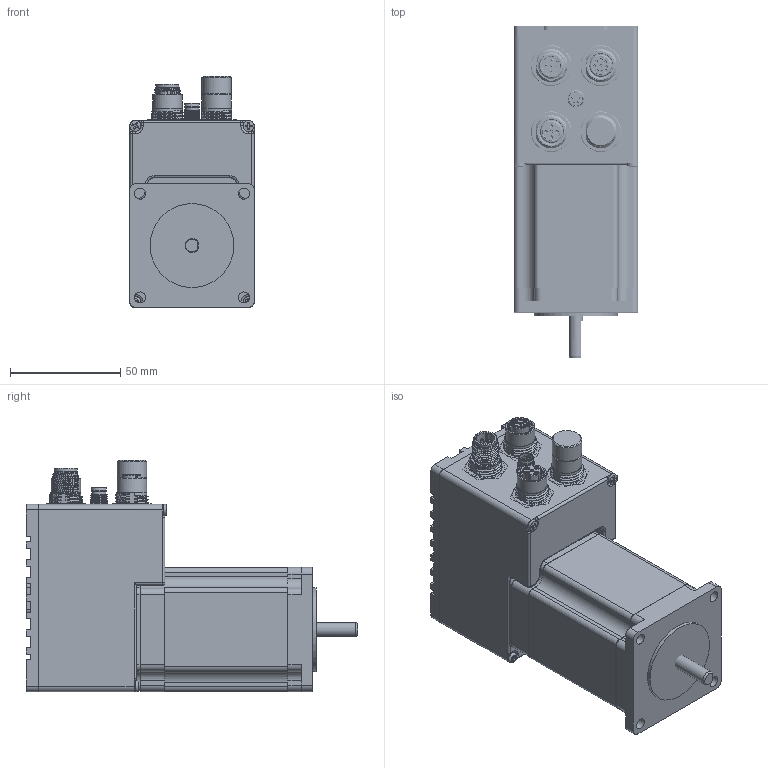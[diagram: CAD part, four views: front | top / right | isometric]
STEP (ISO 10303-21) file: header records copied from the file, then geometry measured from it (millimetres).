
FILE_DESCRIPTION(/* description */ ('Unknown'),/* implementation_level */ '2;1');
FILE_NAME(/* name */ 'SM4D260PE275DM0',/* time_stamp */ '2021-08-31T11:18:53+02:00',/* author */ ('Unknown'),/* organization */ ('Unknown'),/* preprocessor_version */ 'ST-DEVELOPER v16.7',/* originating_system */ 'Solid Edge',/* authorisation */ 'Unknown');
FILE_SCHEMA (('AUTOMOTIVE_DESIGN {1 0 10303 214 3 1 1}'));
Products named in the file (23): SM4D2 con IMD12; dissipatore_imd12_2prot; scatola_sm4d2xx_imd12_2prot; imd12_guarnizione_dissipatore; mica_imd12; hexdist_MF_M2e5 x 12mm; tcc_M2e5x05; tcc_M3x08; imd12_piana_motore; MSDS-04PFFP-SF8001-STP; 8-04pmms-sf7001; 8-04PMMS-SF7001; M12A-05PMMS-SF8001-STP; M12A-08PFFS-SF8001-STP; tcc_M2e5x60; TAPPO_M12; tcc_M2e5x47; MT23HE31042A4Z1; ASM0001_ASM_1_ASM; 123_1; MT23HE22028E4LVFRONTENDBELL_2; MT23HE22028E4LVREARENDBELL_2; MT23HE22028E4LVSHAFT_1
Assembly tree (34 placements, depth 4):
  SM4D2 con IMD12
    dissipatore_imd12_2prot
    scatola_sm4d2xx_imd12_2prot
    imd12_guarnizione_dissipatore
    mica_imd12  x2
    hexdist_MF_M2e5 x 12mm  x3
    tcc_M2e5x05  x4
    tcc_M3x08  x4
    imd12_piana_motore
    MSDS-04PFFP-SF8001-STP  x2
    8-04pmms-sf7001
      8-04PMMS-SF7001
    M12A-05PMMS-SF8001-STP
    M12A-08PFFS-SF8001-STP
    tcc_M2e5x60  x2
    TAPPO_M12
    tcc_M2e5x47  x2
    MT23HE31042A4Z1
      ASM0001_ASM_1_ASM
        123_1
        MT23HE22028E4LVFRONTENDBELL_2
        MT23HE22028E4LVREARENDBELL_2
        MT23HE22028E4LVSHAFT_1
Bounding box: 56.4 x 150.58 x 105 mm (x, y, z)
Volume: 197517.3 mm3; surface area: 139045.3 mm2
Topology: 34 solids, 39 shells, 4048 faces, 10939 edges, 7243 vertices
Faces by surface type: plane 1976, cylinder 946, bspline 777, cone 240, torus 60, sphere 49
Full cylindrical faces by diameter (mm): 0.8 x20, 1 x24, 1.05 x8, 1.2 x12, 1.25 x8, 1.4 x4, 1.42 x8, 1.45 x5, 1.5 x12, 1.55 x16, 1.6 x8, 1.62 x8, 1.78 x8, 2 x2, 2.05 x4, 2.5 x22, 2.7 x4, 3 x20, 5 x13, 5.75 x3, 5.8 x1, 6 x4, 6.35 x1, 6.5 x1, 6.9 x1, 8 x1, 8.2 x3, 8.3 x1, 8.4 x1, 8.6 x1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
Entity records: 145192 total; most frequent: CARTESIAN_POINT 56525, ORIENTED_EDGE 16908, DIRECTION 12667, EDGE_CURVE 8458, VERTEX_POINT 5774, LINE 4323, VECTOR 4323, AXIS2_PLACEMENT_3D 4172
